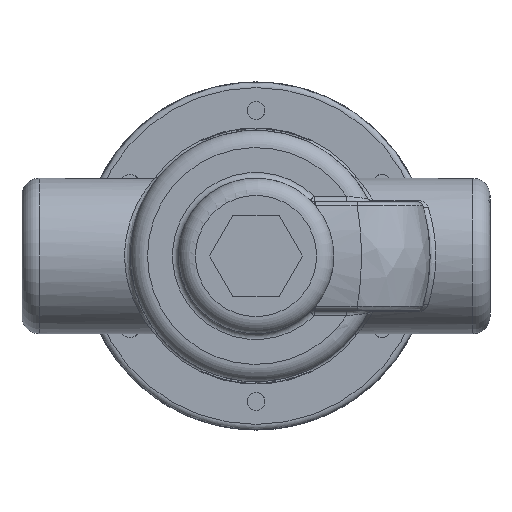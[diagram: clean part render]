
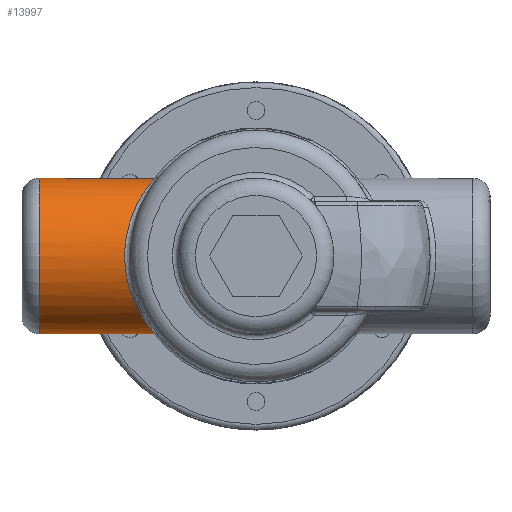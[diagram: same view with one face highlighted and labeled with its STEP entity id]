
A CAD part, front view. The second image highlights one B-rep face of the part: STEP entity #13997.
In plain terms, the highlighted cylindrical face has radius 21.63 mm (diameter 43.259 mm), a full revolution.
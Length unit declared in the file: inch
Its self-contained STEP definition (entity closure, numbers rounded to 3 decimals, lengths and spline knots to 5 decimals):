
#495=B_SPLINE_CURVE_WITH_KNOTS('',3,(#26896,#26897,#26898,#26899,#26900,
#26901,#26902,#26903,#26904,#26905),.UNSPECIFIED.,.F.,.F.,(4,2,2,2,4),(2.65789,
2.89718,3.31067,3.72417,3.96346),
 .UNSPECIFIED.);
#522=B_SPLINE_CURVE_WITH_KNOTS('',3,(#27691,#27692,#27693,#27694,#27695,
#27696,#27697,#27698,#27699,#27700),.UNSPECIFIED.,.F.,.F.,(4,2,2,2,4),(0.,
0.08336,0.19855,0.35032,0.35142),
 .UNSPECIFIED.);
#524=B_SPLINE_CURVE_WITH_KNOTS('',3,(#27736,#27737,#27738,#27739,#27740,
#27741,#27742,#27743,#27744,#27745),.UNSPECIFIED.,.F.,.F.,(4,2,2,2,4),(-0.0009,
0.,0.12355,0.21732,0.28518),.UNSPECIFIED.);
#527=B_SPLINE_CURVE_WITH_KNOTS('',3,(#27881,#27882,#27883,#27884,#27885,
#27886,#27887,#27888,#27889,#27890,#27891,#27892,#27893,#27894,#27895,#27896,
#27897,#27898,#27899,#27900),.UNSPECIFIED.,.F.,.F.,(4,1,1,1,1,1,1,1,1,1,
1,1,1,1,1,1,1,4),(8.51514,9.44817,10.3812,10.84771,
11.31422,12.24725,12.86926,14.1133,14.73532,
15.35733,15.97935,16.60137,17.8454,18.46742,
19.08944,19.71146,20.64448,21.57751),
 .UNSPECIFIED.);
#1960=LINE('',#27709,#2996);
#1963=LINE('',#27902,#2999);
#2996=VECTOR('',#17558,0.3937);
#2999=VECTOR('',#17579,0.3937);
#3088=CYLINDRICAL_SURFACE('',#14853,0.85156);
#3161=FACE_BOUND('',#4768,.T.);
#3928=FACE_OUTER_BOUND('',#4767,.T.);
#4767=EDGE_LOOP('',(#12107,#12108,#12109,#12110,#12111,#12112));
#4768=EDGE_LOOP('',(#12113));
#5099=CIRCLE('',#14854,0.85156);
#6284=VERTEX_POINT('',#26893);
#6285=VERTEX_POINT('',#26895);
#6335=VERTEX_POINT('',#27690);
#6336=VERTEX_POINT('',#27707);
#6337=VERTEX_POINT('',#27735);
#6339=VERTEX_POINT('',#27778);
#6340=VERTEX_POINT('',#27904);
#8161=EDGE_CURVE('',#6285,#6284,#495,.T.);
#8256=EDGE_CURVE('',#6335,#6284,#522,.F.);
#8259=EDGE_CURVE('',#6336,#6335,#1960,.T.);
#8260=EDGE_CURVE('',#6285,#6337,#524,.F.);
#8269=EDGE_CURVE('',#6339,#6336,#527,.T.);
#8270=EDGE_CURVE('',#6337,#6339,#1963,.T.);
#8271=EDGE_CURVE('',#6340,#6340,#5099,.T.);
#12107=ORIENTED_EDGE('',*,*,#8161,.T.);
#12108=ORIENTED_EDGE('',*,*,#8256,.F.);
#12109=ORIENTED_EDGE('',*,*,#8259,.F.);
#12110=ORIENTED_EDGE('',*,*,#8269,.F.);
#12111=ORIENTED_EDGE('',*,*,#8270,.F.);
#12112=ORIENTED_EDGE('',*,*,#8260,.F.);
#12113=ORIENTED_EDGE('',*,*,#8271,.F.);
#13997=ADVANCED_FACE('',(#3928,#3161),#3088,.T.);
#14853=AXIS2_PLACEMENT_3D('',#27903,#17580,#17581);
#14854=AXIS2_PLACEMENT_3D('',#27905,#17582,#17583);
#17558=DIRECTION('',(-1.,0.,0.));
#17579=DIRECTION('',(1.,0.,0.));
#17580=DIRECTION('center_axis',(1.,0.,0.));
#17581=DIRECTION('ref_axis',(0.,-1.,0.));
#17582=DIRECTION('center_axis',(-1.,0.,0.));
#17583=DIRECTION('ref_axis',(0.,-1.,0.));
#26893=CARTESIAN_POINT('',(-1.88834,-0.56431,-0.26066));
#26895=CARTESIAN_POINT('',(-1.88834,-0.56431,0.26066));
#26896=CARTESIAN_POINT('Ctrl Pts',(-1.88834,-0.56431,
0.26066));
#26897=CARTESIAN_POINT('Ctrl Pts',(-1.89266,-0.55425,
0.22937));
#26898=CARTESIAN_POINT('Ctrl Pts',(-1.89626,-0.54602,
0.19752));
#26899=CARTESIAN_POINT('Ctrl Pts',(-1.90388,-0.52871,
0.11015));
#26900=CARTESIAN_POINT('Ctrl Pts',(-1.90625,-0.52344,0.05426));
#26901=CARTESIAN_POINT('Ctrl Pts',(-1.90625,-0.52344,-0.05426));
#26902=CARTESIAN_POINT('Ctrl Pts',(-1.90388,-0.52871,
-0.11015));
#26903=CARTESIAN_POINT('Ctrl Pts',(-1.89626,-0.54602,
-0.19752));
#26904=CARTESIAN_POINT('Ctrl Pts',(-1.89266,-0.55425,
-0.22937));
#26905=CARTESIAN_POINT('Ctrl Pts',(-1.88834,-0.56431,
-0.26066));
#27690=CARTESIAN_POINT('',(-1.81511,-0.5984,-0.34936));
#27691=CARTESIAN_POINT('Ctrl Pts',(-1.88834,-0.56431,
-0.26066));
#27692=CARTESIAN_POINT('Ctrl Pts',(-1.88692,-0.56763,
-0.27099));
#27693=CARTESIAN_POINT('Ctrl Pts',(-1.88333,-0.57102,
-0.28083));
#27694=CARTESIAN_POINT('Ctrl Pts',(-1.87111,-0.5789,
-0.30259));
#27695=CARTESIAN_POINT('Ctrl Pts',(-1.86169,-0.58294,-0.31286));
#27696=CARTESIAN_POINT('Ctrl Pts',(-1.84149,-0.5905,
-0.33143));
#27697=CARTESIAN_POINT('Ctrl Pts',(-1.82855,-0.59443,
-0.34052));
#27698=CARTESIAN_POINT('Ctrl Pts',(-1.8153,-0.59834,
-0.34923));
#27699=CARTESIAN_POINT('Ctrl Pts',(-1.8152,-0.59837,
-0.3493));
#27700=CARTESIAN_POINT('Ctrl Pts',(-1.81511,-0.5984,
-0.34936));
#27707=CARTESIAN_POINT('',(-1.38773,-0.5984,-0.34936));
#27709=CARTESIAN_POINT('',(-2.5625,-0.5984,-0.34936));
#27735=CARTESIAN_POINT('',(-1.81511,-0.5984,0.34936));
#27736=CARTESIAN_POINT('Ctrl Pts',(-1.81511,-0.5984,
0.34936));
#27737=CARTESIAN_POINT('Ctrl Pts',(-1.8152,-0.59837,
0.3493));
#27738=CARTESIAN_POINT('Ctrl Pts',(-1.8153,-0.59834,
0.34923));
#27739=CARTESIAN_POINT('Ctrl Pts',(-1.82855,-0.59443,
0.34052));
#27740=CARTESIAN_POINT('Ctrl Pts',(-1.84149,-0.5905,
0.33143));
#27741=CARTESIAN_POINT('Ctrl Pts',(-1.86169,-0.58294,
0.31286));
#27742=CARTESIAN_POINT('Ctrl Pts',(-1.87111,-0.5789,
0.30259));
#27743=CARTESIAN_POINT('Ctrl Pts',(-1.88333,-0.57102,
0.28083));
#27744=CARTESIAN_POINT('Ctrl Pts',(-1.88692,-0.56763,
0.27099));
#27745=CARTESIAN_POINT('Ctrl Pts',(-1.88834,-0.56431,
0.26066));
#27778=CARTESIAN_POINT('',(-1.38773,-0.5984,0.34936));
#27881=CARTESIAN_POINT('Ctrl Pts',(-1.38773,-0.5984,
0.34936));
#27882=CARTESIAN_POINT('Ctrl Pts',(-1.35843,-0.64384,
0.45037));
#27883=CARTESIAN_POINT('Ctrl Pts',(-1.27891,-0.77158,
0.62922));
#27884=CARTESIAN_POINT('Ctrl Pts',(-1.17188,-0.99973,0.7782));
#27885=CARTESIAN_POINT('Ctrl Pts',(-1.11813,-1.21437,
0.84203));
#27886=CARTESIAN_POINT('Ctrl Pts',(-1.0993,-1.44353,
0.86258));
#27887=CARTESIAN_POINT('Ctrl Pts',(-1.14914,-1.68754,
0.80828));
#27888=CARTESIAN_POINT('Ctrl Pts',(-1.27029,-1.96641,
0.6412));
#27889=CARTESIAN_POINT('Ctrl Pts',(-1.38442,-2.14803,0.40847));
#27890=CARTESIAN_POINT('Ctrl Pts',(-1.43918,-2.22916,
0.11546));
#27891=CARTESIAN_POINT('Ctrl Pts',(-1.43921,-2.229,
-0.11549));
#27892=CARTESIAN_POINT('Ctrl Pts',(-1.39799,-2.16855,
-0.33505));
#27893=CARTESIAN_POINT('Ctrl Pts',(-1.30419,-2.01961,-0.58836));
#27894=CARTESIAN_POINT('Ctrl Pts',(-1.18151,-1.79007,
-0.76847));
#27895=CARTESIAN_POINT('Ctrl Pts',(-1.10866,-1.50183,
-0.85252));
#27896=CARTESIAN_POINT('Ctrl Pts',(-1.1061,-1.26995,
-0.85545));
#27897=CARTESIAN_POINT('Ctrl Pts',(-1.16477,-1.01471,
-0.78812));
#27898=CARTESIAN_POINT('Ctrl Pts',(-1.27889,-0.77172,
-0.62923));
#27899=CARTESIAN_POINT('Ctrl Pts',(-1.35843,-0.64384,
-0.45036));
#27900=CARTESIAN_POINT('Ctrl Pts',(-1.38773,-0.5984,
-0.34936));
#27902=CARTESIAN_POINT('',(-2.5625,-0.5984,0.34936));
#27903=CARTESIAN_POINT('Origin',(-2.5625,-1.375,0.));
#27904=CARTESIAN_POINT('',(-2.375,-0.52344,0.));
#27905=CARTESIAN_POINT('Origin',(-2.375,-1.375,0.));
